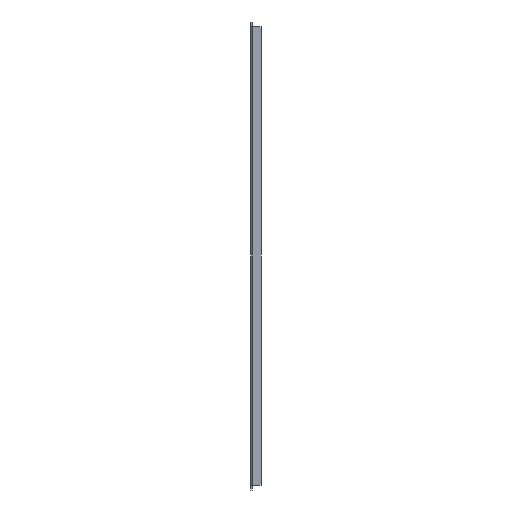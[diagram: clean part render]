
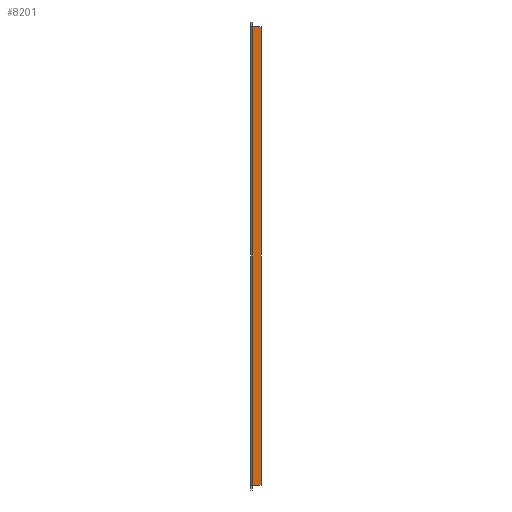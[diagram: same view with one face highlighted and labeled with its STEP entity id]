
A CAD part, left-side view. The second image highlights one B-rep face of the part: STEP entity #8201.
In plain terms, the highlighted planar face has unit normal (-1, 0, 0).
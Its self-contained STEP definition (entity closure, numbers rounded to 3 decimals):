
#4431=CARTESIAN_POINT(' ',(-134.5,-2.6,-342.5));
#4432=VERTEX_POINT(' ',#4431);
#4446=CARTESIAN_POINT(' ',(-134.5,-2.6,-342.5));
#4451=DIRECTION(' ',(0.,0.,1.));
#4456=VECTOR(' ',#4451,1.);
#4461=LINE('',#4446,#4456);
#4466=CARTESIAN_POINT(' ',(-134.5,-2.6,342.5));
#4467=VERTEX_POINT(' ',#4466);
#4471=EDGE_CURVE(' ',#4432,#4467,#4461,.T.);
#8026=CARTESIAN_POINT(' ',(-134.5,-15.,-342.5));
#8027=VERTEX_POINT(' ',#8026);
#8041=CARTESIAN_POINT(' ',(-134.5,-15.,-342.5));
#8046=DIRECTION(' ',(0.,1.,0.));
#8051=VECTOR(' ',#8046,1.);
#8056=LINE('',#8041,#8051);
#8061=EDGE_CURVE(' ',#8027,#4432,#8056,.T.);
#8091=DIRECTION(' ',(-1.,0.,0.));
#8096=CARTESIAN_POINT(' ',(-134.5,-2.6,342.5));
#8101=DIRECTION(' ',(-0.,0.,-1.));
#8106=AXIS2_PLACEMENT_3D(' ',#8096,#8091,#8101);
#8111=PLANE('NONE',#8106);
#8116=ORIENTED_EDGE(' ',*,*,#4471,.F.);
#8121=ORIENTED_EDGE(' ',*,*,#8061,.F.);
#8126=CARTESIAN_POINT(' ',(-134.5,-15.,342.5));
#8131=DIRECTION(' ',(0.,0.,-1.));
#8136=VECTOR(' ',#8131,1.);
#8141=LINE('',#8126,#8136);
#8146=CARTESIAN_POINT(' ',(-134.5,-15.,342.5));
#8147=VERTEX_POINT(' ',#8146);
#8151=EDGE_CURVE(' ',#8147,#8027,#8141,.T.);
#8156=ORIENTED_EDGE(' ',*,*,#8151,.F.);
#8161=CARTESIAN_POINT(' ',(-134.5,-2.6,342.5));
#8166=DIRECTION(' ',(0.,-1.,0.));
#8171=VECTOR(' ',#8166,1.);
#8176=LINE('',#8161,#8171);
#8181=EDGE_CURVE(' ',#4467,#8147,#8176,.T.);
#8186=ORIENTED_EDGE(' ',*,*,#8181,.F.);
#8191=EDGE_LOOP(' ',(#8116,#8121,#8156,#8186));
#8196=FACE_OUTER_BOUND(' ',#8191,.T.);
#8201=ADVANCED_FACE('NONE',(#8196),#8111,.T.);
